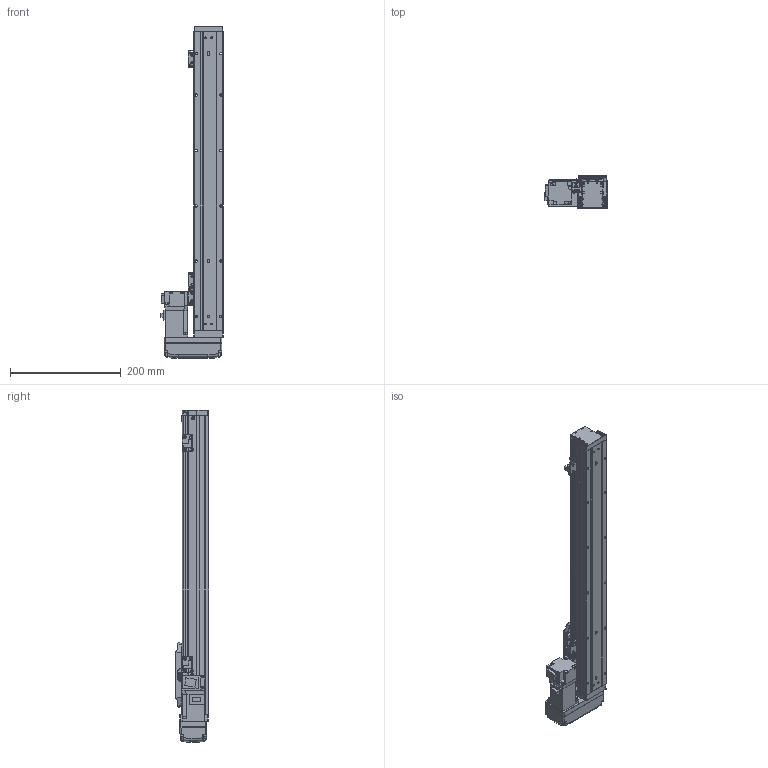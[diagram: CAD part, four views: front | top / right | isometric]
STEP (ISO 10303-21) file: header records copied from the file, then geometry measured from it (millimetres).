
FILE_DESCRIPTION (( 'STEP AP203' ), '1' );
FILE_NAME ('GTH5-400-BL-M10-C4.step', '2022-09-23T00:44:19', ( '微软用户' ), ( '微软中国' ), 'SwSTEP 2.0', 'SolidWorks 2020', '' );
FILE_SCHEMA (( 'CONFIG_CONTROL_DESIGN' ));
Length unit declared in the file: millimetre
Products named in the file (19): GTH5-400-BL-M10-C4; GBT 70.1-M4×16; GBT 70.1-M2.5×6; GTH50-003; GTH50-028; GTH50-006; GTH50-013; GTH50-022-1; GTH50-004; GTH50-023; HG-KR13; GBT 70.3-M3℅6; GBT 70.1-M3℅6; GTH50-027-1_BTHA50-027-2; BTH-M3X5X6; GBT96.1-2002 3×0.8; GTH50-026; GTH50-001_400; GTH50-024
Assembly tree (57 placements, depth 2):
  GTH5-400-BL-M10-C4
    GTH50-006
    GTH50-004
    GBT 70.3-M3℅6  x4
    BTH-M3X5X6  x8
    GTH50-001_400
    GBT 70.1-M4×16  x8
    GTH50-003
    GTH50-013
    GTH50-023  x3
    GBT 70.1-M3℅6  x12
    GBT96.1-2002 3×0.8  x6
    GTH50-024  x3
    GBT 70.1-M2.5×6  x2
    GTH50-028  x2
    GTH50-022-1
    HG-KR13
    GTH50-027-1_BTHA50-027-2
    GTH50-026
Bounding box: 113.8 x 60 x 600 mm (x, y, z)
Volume: 1408116.4 mm3; surface area: 256006.5 mm2
Topology: 59 solids, 59 shells, 2152 faces, 4992 edges, 3060 vertices
Faces by surface type: plane 1142, cylinder 581, cone 219, torus 162, bspline 40, sphere 8
Entity records: 39864 total; most frequent: CARTESIAN_POINT 7899, DIRECTION 6129, ORIENTED_EDGE 5898, EDGE_CURVE 2949, AXIS2_PLACEMENT_3D 2128, VECTOR 1873, LINE 1873, VERTEX_POINT 1862
